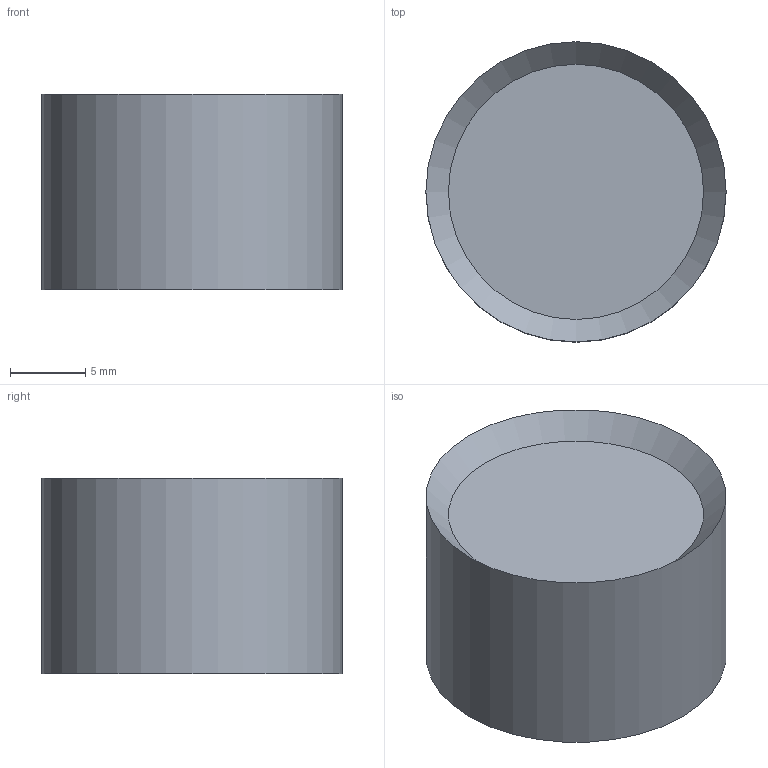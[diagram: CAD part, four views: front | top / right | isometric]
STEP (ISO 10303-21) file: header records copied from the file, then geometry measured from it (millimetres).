
FILE_DESCRIPTION(/* description */ ('STEP AP242 Edition 2','CAx-IF Rec.Pracs.---Representation and Presentation of Product Manufacturing Information (PMI)---4.0---2014-10-13','CAx-IF Rec.Pracs.---3D Tessellated Geometry---0.4---2014-09-14','2;1','CAx-IF Rec.Pracs.---User Defined Attributes---1.5---2016-08-15'),/* implementation_level */ '2;1');
FILE_NAME(/* name */ 'Assembly 1 - Part 1 (4)',/* time_stamp */ '2026-07-23T10:03:21Z',/* author */ (''),/* organization */ (''),/* preprocessor_version */ 'ST-DEVELOPER v20',/* originating_system */ 'ONSHAPE BY PTC INC, 1.218',/* authorisation */ ' ');
FILE_SCHEMA (('AP242_MANAGED_MODEL_BASED_3D_ENGINEERING_MIM_LF { 1 0 10303 442 3 1 4 }'));
Length unit declared in the file: metre
Products named in the file (1): Part 1
Bounding box: 20 x 20 x 13 mm (x, y, z)
Volume: 1720.3 mm3; surface area: 2429.8 mm2
Topology: 1 solids, 1 shells, 11 faces, 17 edges, 11 vertices
Faces by surface type: plane 6, cylinder 4, cone 1
Full cylindrical faces by diameter (mm): 8 x1, 17 x1, 20 x1
Entity records: 254 total; most frequent: DIRECTION 46, CARTESIAN_POINT 36, ORIENTED_EDGE 26, AXIS2_PLACEMENT_3D 21, EDGE_LOOP 18, FACE_BOUND 18, EDGE_CURVE 13, VERTEX_POINT 11
